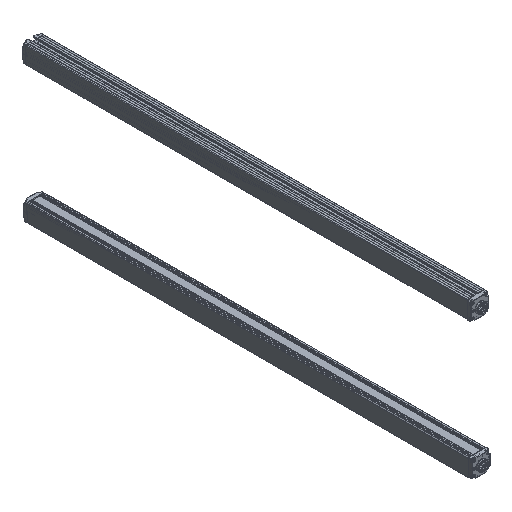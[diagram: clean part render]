
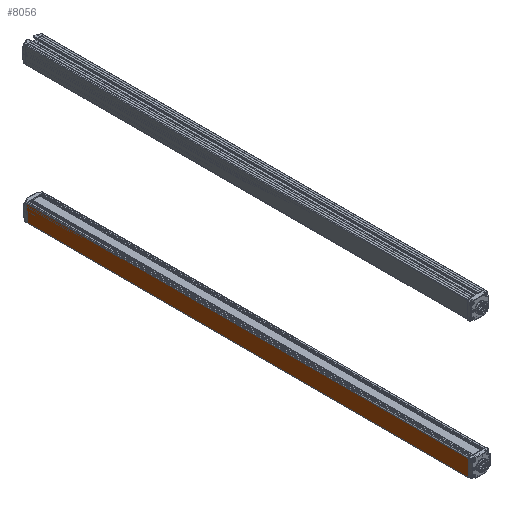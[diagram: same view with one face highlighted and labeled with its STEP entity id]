
A CAD part, isometric view. The second image highlights one B-rep face of the part: STEP entity #8056.
In plain terms, the highlighted planar face has unit normal (-1, 0, -0.009) as drawn and (1, 0, 0) by its records, which use the part's own axes.
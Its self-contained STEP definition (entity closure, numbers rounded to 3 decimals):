
#224 = VECTOR ( 'NONE', #10450, 1000. ) ;
#920 = VECTOR ( 'NONE', #2014, 1000. ) ;
#1634 = CARTESIAN_POINT ( 'NONE',  ( 15., 0., -16.693 ) ) ;
#1860 = CARTESIAN_POINT ( 'NONE',  ( 15., 740., -16.693 ) ) ;
#1917 = LINE ( 'NONE', #13009, #920 ) ;
#2014 = DIRECTION ( 'NONE',  ( 0., 0., -1. ) ) ;
#2015 = EDGE_CURVE ( 'NONE', #5442, #16934, #13045, .T. ) ;
#2474 = VERTEX_POINT ( 'NONE', #4363 ) ;
#3232 = ORIENTED_EDGE ( 'NONE', *, *, #7891, .F. ) ;
#3726 = FACE_OUTER_BOUND ( 'NONE', #7084, .T. ) ;
#4354 = EDGE_CURVE ( 'NONE', #8703, #2474, #6270, .T. ) ;
#4363 = CARTESIAN_POINT ( 'NONE',  ( 15., 0., 10.9 ) ) ;
#4535 = DIRECTION ( 'NONE',  ( 0., 0., -1. ) ) ;
#5442 = VERTEX_POINT ( 'NONE', #1634 ) ;
#6270 = LINE ( 'NONE', #11711, #224 ) ;
#6472 = CARTESIAN_POINT ( 'NONE',  ( 15., 740., -16.9 ) ) ;
#6559 = PLANE ( 'NONE',  #8876 ) ;
#7084 = EDGE_LOOP ( 'NONE', ( #12487, #8867, #3232, #17628 ) ) ;
#7891 = EDGE_CURVE ( 'NONE', #8703, #16934, #11369, .T. ) ;
#8056 = ADVANCED_FACE ( 'NONE', ( #3726 ), #6559, .F. ) ;
#8703 = VERTEX_POINT ( 'NONE', #16539 ) ;
#8867 = ORIENTED_EDGE ( 'NONE', *, *, #2015, .T. ) ;
#8876 = AXIS2_PLACEMENT_3D ( 'NONE', #6472, #9003, #14637 ) ;
#9003 = DIRECTION ( 'NONE',  ( -1., 0., 0. ) ) ;
#10450 = DIRECTION ( 'NONE',  ( 0., -1., 0. ) ) ;
#11369 = LINE ( 'NONE', #17007, #15904 ) ;
#11711 = CARTESIAN_POINT ( 'NONE',  ( 15., 740., 10.9 ) ) ;
#12465 = CARTESIAN_POINT ( 'NONE',  ( 15., 740., -16.693 ) ) ;
#12487 = ORIENTED_EDGE ( 'NONE', *, *, #13472, .T. ) ;
#13009 = CARTESIAN_POINT ( 'NONE',  ( 15., 0., -16.9 ) ) ;
#13045 = LINE ( 'NONE', #1860, #17188 ) ;
#13472 = EDGE_CURVE ( 'NONE', #2474, #5442, #1917, .T. ) ;
#14637 = DIRECTION ( 'NONE',  ( 0., 0., 1. ) ) ;
#15904 = VECTOR ( 'NONE', #4535, 1000. ) ;
#16539 = CARTESIAN_POINT ( 'NONE',  ( 15., 740., 10.9 ) ) ;
#16934 = VERTEX_POINT ( 'NONE', #12465 ) ;
#17007 = CARTESIAN_POINT ( 'NONE',  ( 15., 740., -16.9 ) ) ;
#17188 = VECTOR ( 'NONE', #17322, 1000. ) ;
#17322 = DIRECTION ( 'NONE',  ( 0., 1., 0. ) ) ;
#17628 = ORIENTED_EDGE ( 'NONE', *, *, #4354, .T. ) ;
